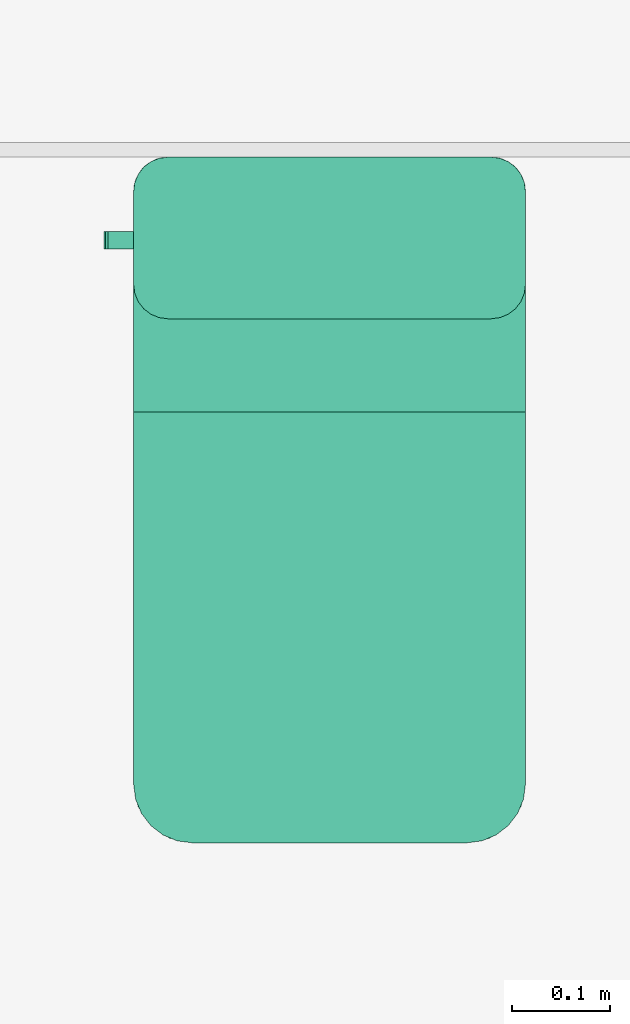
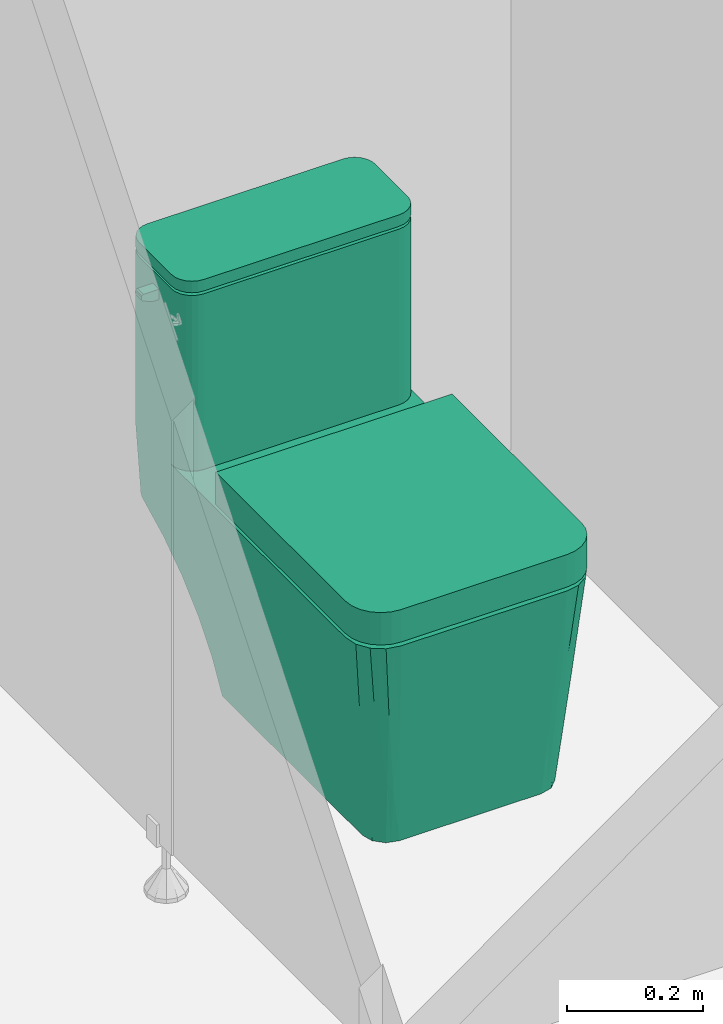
# One storey, part 88 of 100: 1 flow terminal.
"""IFC2X3 building model written with IfcOpenShell, lengths in millimetres."""

import ifcopenshell
import ifcopenshell.guid

model = None  # the IFC model being written
_history = None  # IfcOwnerHistory: only IFC2X3 demands one
_inside = {}  # id of a spatial element -> (the spatial element, [elements in it])
_under = {}  # id of a project, library or spatial element -> (it, [spatial elements below it])
_declared = {}  # id of a project -> (the project, [libraries it declares])
_typed = {}  # id of a type object -> (the type object, [elements of that type])
_made_of = {}  # id of a material, layer set ... -> (it, [elements and type objects made of it])


def new_model(schema):
    """Start an empty IFC model of exactly this schema.

    Asked for "IFC4X3", IfcOpenShell would pick the latest addendum, in which some entities
    have other attributes; the version numbers below select the first issue.
    IFC2X3 requires an IfcOwnerHistory on every rooted entity: one is made here for all.
    """
    global model, _history
    if schema == "IFC4X3":
        model = ifcopenshell.file(schema_version=(4, 3, 0, 0))
    else:
        model = ifcopenshell.file(schema=schema)
    _inside.clear()
    _under.clear()
    _declared.clear()
    _typed.clear()
    _made_of.clear()
    _history = None
    if model.schema == "IFC2X3":
        org = make("IfcOrganization", Name="unknown")
        user = make(
            "IfcPersonAndOrganization",
            ThePerson=make("IfcPerson", FamilyName="unknown"),
            TheOrganization=org,
        )
        app = make(
            "IfcApplication",
            ApplicationDeveloper=org,
            Version="unknown",
            ApplicationFullName="unknown",
            ApplicationIdentifier="unknown",
        )
        _history = make(
            "IfcOwnerHistory",
            OwningUser=user,
            OwningApplication=app,
            ChangeAction="ADDED",
            CreationDate=0,
        )
    return model


def make(cls, **values):
    """One entity of the class cls with the attributes given. An attribute that is None is left unset."""
    return model.create_entity(
        cls, **{name: value for name, value in values.items() if value is not None}
    )


def entity(cls, *values):
    """Any entity or typed value of the class cls, its attributes in the order of the schema. None: left unset."""
    e = model.create_entity(cls)
    for i, value in enumerate(values):
        if value is not None:
            e[i] = value
    return e


def rooted(cls, **values):
    """An entity with a GlobalId (a new one), such as an element, a storey or a relation."""
    return make(cls, GlobalId=ifcopenshell.guid.new(), OwnerHistory=_history, **values)


def si_unit(unit_type, name, prefix=None):
    """IfcSIUnit, for example si_unit("LENGTHUNIT", "METRE", prefix="MILLI")."""
    return make("IfcSIUnit", UnitType=unit_type, Prefix=prefix, Name=name)


def converted_unit(unit_type, name, factor, base, dimensions=None, offset=None):
    """IfcConversionBasedUnit, such as the inch: factor (a typed value) times the base unit."""
    return make(
        "IfcConversionBasedUnit"
        if offset is None
        else "IfcConversionBasedUnitWithOffset",
        ConversionOffset=offset,
        Dimensions=None
        if dimensions is None
        else entity("IfcDimensionalExponents", *dimensions),
        UnitType=unit_type,
        Name=name,
        ConversionFactor=make(
            "IfcMeasureWithUnit", ValueComponent=factor, UnitComponent=base
        ),
    )


def derived_unit(unit_type, elements):
    """IfcDerivedUnit: a product of units, each with its exponent."""
    return make(
        "IfcDerivedUnit",
        Elements=[
            make("IfcDerivedUnitElement", Unit=unit, Exponent=power)
            for unit, power in elements
        ],
        UnitType=unit_type,
    )


def assignment(units):
    """IfcUnitAssignment: the units of a project."""
    return None if units is None else make("IfcUnitAssignment", Units=units)


def point(xyz):
    """IfcCartesianPoint."""
    return None if xyz is None else make("IfcCartesianPoint", Coordinates=xyz)


def direction(xyz):
    """IfcDirection."""
    return None if xyz is None else make("IfcDirection", DirectionRatios=xyz)


def frame(location, z_axis=None, x_axis=None):
    """IfcAxis2Placement3D, a coordinate frame: its origin and axes. An axis left out is left unset."""
    return make(
        "IfcAxis2Placement3D",
        Location=point(location),
        Axis=direction(z_axis),
        RefDirection=direction(x_axis),
    )


def origin():
    """The frame at (0, 0, 0) with its axes left unset."""
    return frame((0.0, 0.0, 0.0))


def place(relative_to, where):
    """IfcLocalPlacement: puts the frame where relative to a parent placement (None: the world)."""
    return make(
        "IfcLocalPlacement", PlacementRelTo=relative_to, RelativePlacement=where
    )


def context(
    kind, dimensions, precision=None, world=None, true_north=None, identifier=None
):
    """IfcGeometricRepresentationContext, for example the 3D "Model" context."""
    return make(
        "IfcGeometricRepresentationContext",
        ContextIdentifier=identifier,
        ContextType=kind,
        CoordinateSpaceDimension=dimensions,
        Precision=precision,
        WorldCoordinateSystem=world,
        TrueNorth=true_north,
    )


def subcontext(parent, identifier, kind, view, scale=None):
    """IfcGeometricRepresentationSubContext, for example "Body" below "Model"."""
    return make(
        "IfcGeometricRepresentationSubContext",
        ContextIdentifier=identifier,
        ContextType=kind,
        ParentContext=parent,
        TargetScale=scale,
        TargetView=view,
    )


def project(units=None, contexts=None):
    """IfcProject with its units and contexts."""
    return rooted(
        "IfcProject",
        Name="project",
        RepresentationContexts=contexts,
        UnitsInContext=assignment(units),
    )


def spatial(cls, under=None, at=None, **own):
    """A site, building, storey or space (cls), placed at a placement, below another one or the project."""
    s = rooted(cls, ObjectPlacement=at, **own)
    if under is not None:
        _under.setdefault(under.id(), (under, []))[1].append(s)
    return s


def faces_of(points, faces, orient=None, outer=None):
    """IfcFace entities. A face is a list of loops; a loop is a list of indices into points, from 0.

    orient and outer hold one flag for each loop. By default every Orientation is true, the
    first loop of a face is its IfcFaceOuterBound and the others are IfcFaceBound.
    """
    made = []
    for i, loops in enumerate(faces):
        bounds = []
        for j, loop in enumerate(loops):
            is_outer = j == 0 if outer is None else outer[i][j]
            bounds.append(
                make(
                    "IfcFaceOuterBound" if is_outer else "IfcFaceBound",
                    Bound=make("IfcPolyLoop", Polygon=[points[k] for k in loop]),
                    Orientation=True if orient is None else orient[i][j],
                )
            )
        made.append(make("IfcFace", Bounds=bounds))
    return made


def faceted_brep(points, faces, orient=None, outer=None, voids=None):
    """IfcFacetedBrep: a solid bounded by flat faces; with voids (closed shells), ...WithVoids."""
    shared = [point(p) for p in points]
    hull = make("IfcClosedShell", CfsFaces=faces_of(shared, faces, orient, outer))
    if voids is None:
        return make("IfcFacetedBrep", Outer=hull)
    return make(
        "IfcFacetedBrepWithVoids",
        Outer=hull,
        Voids=[
            make(cls, CfsFaces=faces_of(shared, fs, o, b)) for cls, fs, o, b in voids
        ],
    )


def shape(context_of_items, identifier, shape_type, items):
    """IfcShapeRepresentation: the items that make up one representation, for example the "Body"."""
    return make(
        "IfcShapeRepresentation",
        ContextOfItems=context_of_items,
        RepresentationIdentifier=identifier,
        RepresentationType=shape_type,
        Items=items,
    )


def source(mapping_origin, context_of_items, identifier, shape_type, items):
    """IfcRepresentationMap: a shape defined once, which mapped items show again and again."""
    return make(
        "IfcRepresentationMap",
        MappingOrigin=mapping_origin,
        MappedRepresentation=shape(context_of_items, identifier, shape_type, items),
    )


def transform(
    local_origin,
    x_axis=None,
    y_axis=None,
    z_axis=None,
    scale=None,
    scale2=None,
    scale3=None,
    uniform=True,
):
    """IfcCartesianTransformationOperator3D, or its non-uniform kind. x_axis, y_axis, z_axis: its Axis1, 2, 3."""
    if uniform:
        return make(
            "IfcCartesianTransformationOperator3D",
            Axis1=direction(x_axis),
            Axis2=direction(y_axis),
            LocalOrigin=point(local_origin),
            Scale=scale,
            Axis3=direction(z_axis),
        )
    return make(
        "IfcCartesianTransformationOperator3DnonUniform",
        Axis1=direction(x_axis),
        Axis2=direction(y_axis),
        LocalOrigin=point(local_origin),
        Scale=scale,
        Axis3=direction(z_axis),
        Scale2=scale2,
        Scale3=scale3,
    )


def mapped(mapping_source, mapping_target):
    """IfcMappedItem: shows the shape of a source again, moved by a transform."""
    return make(
        "IfcMappedItem", MappingSource=mapping_source, MappingTarget=mapping_target
    )


def material(Name=None, Category=None):
    """IfcMaterial."""
    return make("IfcMaterial", Name=Name, Category=Category)


def material_list(materials):
    """IfcMaterialList."""
    return make("IfcMaterialList", Materials=materials)


def made_of(thing, what):
    """Note that an element or type object is made of a material, layer set ...; save() writes the relation."""
    if what is not None:
        _made_of.setdefault(what.id(), (what, []))[1].append(thing)
    return thing


def type_object(cls, material=None, **own):
    """A type object (cls), such as IfcWallType, which elements share."""
    return made_of(rooted(cls, **own), material)


def type_shapes(of_type, sources):
    """Give a type object the sources (RepresentationMaps) that its elements show as mapped items."""
    of_type.RepresentationMaps = sources


def element(
    cls,
    number,
    at=None,
    inside=None,
    cuts=None,
    type_object=None,
    material=None,
    context=None,
    identifier="Body",
    shape_type=None,
    held_by="IfcProductDefinitionShape",
    body=None,
    shapes=None,
    **own,
):
    """One element of the class cls, such as IfcWall. Its Tag is "e" and its number.

    at: its placement. inside: the storey or other place that contains it. cuts: it is an
    opening in that element (IfcRelVoidsElement). A single representation is given by context,
    identifier, shape_type and body (its items); several are given by shapes. held_by: the class
    of the entity that holds the representations. save() writes the other relations.
    """
    e = rooted(cls, Tag="e%d" % number, ObjectPlacement=at, **own)
    if body is not None:
        shapes = [shape(context, identifier, shape_type, body)]
    if shapes is not None:
        e.Representation = make(held_by, Representations=shapes)
    if inside is not None:
        _inside.setdefault(inside.id(), (inside, []))[1].append(e)
    if cuts is not None:
        rooted(
            "IfcRelVoidsElement", RelatingBuildingElement=cuts, RelatedOpeningElement=e
        )
    if type_object is not None:
        _typed.setdefault(type_object.id(), (type_object, []))[1].append(e)
    return made_of(e, material)


def aggregate(whole, parts):
    """IfcRelAggregates: a whole, such as a stair, and the parts it consists of."""
    return rooted("IfcRelAggregates", RelatingObject=whole, RelatedObjects=parts)


def save(model, path):
    """Write the relations noted so far, then the file.

    IfcRelAggregates (storeys below a building ...), IfcRelContainedInSpatialStructure (elements
    in a storey), IfcRelDefinesByType, IfcRelAssociatesMaterial and IfcRelDeclares: one each for
    every whole, place, type object, material and project.
    """
    for whole, parts in _under.values():
        aggregate(whole, parts)
    for where, things in _inside.values():
        rooted(
            "IfcRelContainedInSpatialStructure",
            RelatedElements=things,
            RelatingStructure=where,
        )
    for kind, things in _typed.values():
        rooted("IfcRelDefinesByType", RelatedObjects=things, RelatingType=kind)
    for what, things in _made_of.values():
        rooted("IfcRelAssociatesMaterial", RelatedObjects=things, RelatingMaterial=what)
    for by, libraries in _declared.values():
        rooted("IfcRelDeclares", RelatingContext=by, RelatedDefinitions=libraries)
    model.write(path)


model = new_model("IFC2X3")

# Units and contexts
model_context = context("Model", 3, precision=0.01, world=origin(), true_north=direction((6.123031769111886e-17, 1.0)))
body_context = subcontext(model_context, "Body", "Model", "MODEL_VIEW")
ifc_project = project(units=[si_unit("LENGTHUNIT", "METRE", prefix="MILLI"), si_unit("AREAUNIT", "SQUARE_METRE"), si_unit("VOLUMEUNIT", "CUBIC_METRE"), converted_unit("PLANEANGLEUNIT", "DEGREE", entity("IfcRatioMeasure", 0.017453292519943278), si_unit("PLANEANGLEUNIT", "RADIAN"), dimensions=[0, 0, 0, 0, 0, 0, 0]), si_unit("MASSUNIT", "GRAM", prefix="KILO"), derived_unit("MASSDENSITYUNIT", [(si_unit("MASSUNIT", "GRAM", prefix="KILO"), 1), (si_unit("LENGTHUNIT", "METRE"), -3)]), derived_unit("MOMENTOFINERTIAUNIT", [(si_unit("LENGTHUNIT", "METRE"), 4)]), si_unit("TIMEUNIT", "SECOND"), si_unit("FREQUENCYUNIT", "HERTZ"), si_unit("THERMODYNAMICTEMPERATUREUNIT", "DEGREE_CELSIUS"), derived_unit("THERMALTRANSMITTANCEUNIT", [(si_unit("MASSUNIT", "GRAM", prefix="KILO"), 1), (si_unit("THERMODYNAMICTEMPERATUREUNIT", "KELVIN"), -1), (si_unit("TIMEUNIT", "SECOND"), -3)]), derived_unit("VOLUMETRICFLOWRATEUNIT", [(si_unit("LENGTHUNIT", "METRE"), 3), (si_unit("TIMEUNIT", "SECOND"), -1)]), derived_unit("MASSFLOWRATEUNIT", [(si_unit("MASSUNIT", "GRAM", prefix="KILO"), 1), (si_unit("TIMEUNIT", "SECOND"), -1)]), derived_unit("ROTATIONALFREQUENCYUNIT", [(si_unit("TIMEUNIT", "SECOND"), -1)]), si_unit("ELECTRICCURRENTUNIT", "AMPERE"), si_unit("ELECTRICVOLTAGEUNIT", "VOLT"), si_unit("POWERUNIT", "WATT"), si_unit("FORCEUNIT", "NEWTON", prefix="KILO"), si_unit("ILLUMINANCEUNIT", "LUX"), si_unit("LUMINOUSFLUXUNIT", "LUMEN"), si_unit("LUMINOUSINTENSITYUNIT", "CANDELA"), derived_unit("USERDEFINED", [(si_unit("MASSUNIT", "GRAM", prefix="KILO"), -1), (si_unit("LENGTHUNIT", "METRE"), -2), (si_unit("TIMEUNIT", "SECOND"), 3), (si_unit("LUMINOUSFLUXUNIT", "LUMEN"), 1)]), derived_unit("SOUNDPOWERUNIT", [(si_unit("MASSUNIT", "GRAM", prefix="KILO"), 1), (si_unit("LENGTHUNIT", "METRE"), 2), (si_unit("TIMEUNIT", "SECOND"), -3)]), derived_unit("SOUNDPRESSUREUNIT", [(si_unit("MASSUNIT", "GRAM", prefix="KILO"), 1), (si_unit("LENGTHUNIT", "METRE"), -1), (si_unit("TIMEUNIT", "SECOND"), -2)]), derived_unit("LINEARVELOCITYUNIT", [(si_unit("LENGTHUNIT", "METRE"), 1), (si_unit("TIMEUNIT", "SECOND"), -1)]), si_unit("PRESSUREUNIT", "PASCAL"), derived_unit("USERDEFINED", [(si_unit("LENGTHUNIT", "METRE"), -2), (si_unit("MASSUNIT", "GRAM", prefix="KILO"), 1), (si_unit("TIMEUNIT", "SECOND"), -2)]), derived_unit("LINEARFORCEUNIT", [(si_unit("MASSUNIT", "GRAM", prefix="KILO"), 1), (si_unit("LENGTHUNIT", "METRE"), 1), (si_unit("TIMEUNIT", "SECOND"), -2), (si_unit("LENGTHUNIT", "METRE"), -1)]), derived_unit("PLANARFORCEUNIT", [(si_unit("MASSUNIT", "GRAM", prefix="KILO"), 1), (si_unit("LENGTHUNIT", "METRE"), 1), (si_unit("TIMEUNIT", "SECOND"), -2), (si_unit("LENGTHUNIT", "METRE"), -2)])], contexts=[model_context])

# Site, building, storey, space
site_placement = place(None, frame((-14167.972527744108, -657.2125860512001, 0.0)))
site = spatial("IfcSite", under=ifc_project, at=site_placement, Name="Default", CompositionType="ELEMENT")
building_placement = place(site_placement, origin())
building = spatial("IfcBuilding", under=site, at=building_placement, Name="Sample Building", CompositionType="ELEMENT")
storey_placement = place(building_placement, origin())
storey = spatial("IfcBuildingStorey", under=building, at=storey_placement, Name="지상 1층", CompositionType="ELEMENT", Elevation=0.0)
space_placement = place(storey_placement, origin())
space = spatial("IfcSpace", under=storey, at=space_placement, Name="171", CompositionType="ELEMENT", InteriorOrExteriorSpace="INTERNAL")

# Flow terminal
ifc_material_1 = material(Name="KBIMS-스테인리스 스틸_도금")
ifc_material_2 = material(Name="KBIMS-도기")
ifc_material_list_1 = material_list([ifc_material_1, ifc_material_2])
ifc_material_list_2 = material_list([ifc_material_1, ifc_material_2, ifc_material_2])
distribution_element_type = type_object("IfcDistributionElementType", Name="PF127-서양식 탱크일체형:PF127-서양식 탱크일체형", material=ifc_material_list_2)
shared_shape = source(origin(), body_context, "Body", "Brep", [
    faceted_brep([(-200.0, -93.78427766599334, 671.547634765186), (-226.3198216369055, -93.78427766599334, 671.5476347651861), (-228.9221007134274, -93.78427766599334, 670.469735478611), (-230.0, -93.78427766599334, 667.8674564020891), (-230.0, -93.78427766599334, 663.5153317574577), (-229.51628854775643, -93.78427766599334, 661.8557929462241), (-228.21666089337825, -93.78427766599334, 660.71605008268), (-215.9758797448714, -93.78427766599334, 655.0080800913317), (-211.766557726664, -93.78427766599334, 653.5792078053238), (-207.34774888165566, -93.78427766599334, 653.095269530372), (-200.0, -93.78427766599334, 653.095269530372), (-230.0, -75.66503821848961, 663.5153317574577), (-230.0, -75.66503821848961, 667.8674564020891), (-228.9221007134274, -75.66503821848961, 670.469735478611), (-226.31982163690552, -75.66503821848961, 671.5476347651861), (-200.0, -75.66503821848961, 671.547634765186), (-200.0, -75.66503821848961, 653.095269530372), (-207.34774888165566, -75.66503821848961, 653.095269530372), (-211.766557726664, -75.66503821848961, 653.5792078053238), (-215.97587974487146, -75.66503821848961, 655.0080800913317), (-228.21666089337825, -75.66503821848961, 660.71605008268), (-229.51628854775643, -75.66503821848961, 661.8557929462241)], [[[0, 1, 2, 3, 4, 5, 6, 7, 8, 9, 10]], [[11, 12, 13, 14, 15, 16, 17, 18, 19, 20, 21]], [[1, 14, 13, 2]], [[13, 12, 3, 2]], [[4, 3, 12, 11]], [[4, 11, 21, 5]], [[21, 20, 6, 5]], [[7, 6, 20, 19]], [[7, 19, 18, 8]], [[18, 17, 9, 8]], [[10, 9, 17, 16]], [[0, 10, 16, 15]], [[1, 0, 15, 14]]]),
    faceted_brep([(140.0, -700.0, 445.0), (155.52914270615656, -697.9555495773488, 445.0), (170.0, -691.9615242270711, 445.0), (182.42640687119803, -682.4264068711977, 445.0), (191.96152422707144, -670.0, 445.0), (197.9555495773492, -655.5291427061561, 445.0), (200.0, -640.0, 445.0), (200.0, -260.0, 445.0), (-200.0, -260.0, 445.0), (-200.0, -640.0, 445.0), (-197.95554957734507, -655.5291427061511, 445.0), (-191.96152422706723, -670.0, 445.0), (-182.42640687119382, -682.4264068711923, 445.0), (-170.0, -691.9615242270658, 445.0), (-155.52914270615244, -697.9555495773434, 445.0), (-140.0, -700.0, 445.0), (-200.0, -640.0, 386.96747142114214), (-200.0, -260.0, 386.96747142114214), (200.0, -260.0, 386.96747142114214), (200.0, -640.0, 386.96747142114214), (197.9555495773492, -655.5291427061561, 386.96747142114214), (191.96152422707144, -670.0, 386.96747142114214), (182.42640687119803, -682.4264068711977, 386.96747142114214), (170.0, -691.9615242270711, 386.96747142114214), (155.52914270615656, -697.9555495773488, 386.96747142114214), (140.0, -700.0, 386.96747142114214), (-140.0, -700.0, 386.96747142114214), (-155.52914270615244, -697.9555495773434, 386.96747142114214), (-170.0, -691.9615242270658, 386.96747142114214), (-182.42640687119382, -682.4264068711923, 386.96747142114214), (-191.96152422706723, -670.0, 386.96747142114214), (-197.95554957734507, -655.5291427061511, 386.96747142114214)], [[[0, 1, 2, 3, 4, 5, 6, 7, 8, 9, 10, 11, 12, 13, 14, 15]], [[16, 17, 18, 19, 20, 21, 22, 23, 24, 25, 26, 27, 28, 29, 30, 31]], [[1, 24, 23, 2]], [[2, 23, 22, 3]], [[25, 24, 1, 0]], [[4, 21, 20, 5]], [[5, 20, 19, 6]], [[3, 22, 21, 4]], [[7, 6, 19, 18]], [[8, 7, 18, 17]], [[9, 8, 17, 16]], [[10, 31, 30, 11]], [[11, 30, 29, 12]], [[9, 16, 31, 10]], [[13, 28, 27, 14]], [[14, 27, 26, 15]], [[12, 29, 28, 13]], [[0, 15, 26, 25]]]),
    faceted_brep([(165.0, 0.0, 694.4321747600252), (165.0, 0.0, 380.0), (164.13685378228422, 0.0, 314.40088745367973), (163.42105263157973, 0.0, 260.0), (-163.42105263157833, 0.0, 260.0), (-164.1368541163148, 0.0, 314.40091283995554), (-165.0, 0.0, 380.0), (-165.0, 0.0, 694.4321747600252), (-165.0, 0.0, 720.0), (165.0, 0.0, 720.0), (165.0, 0.0, 699.4321747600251), (-165.0, 0.0, 699.4321747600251), (200.0, -35.0, 694.4321747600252), (200.0, -130.0, 694.4321747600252), (200.0, -130.0, 380.0), (200.0, -35.0, 380.0), (200.0, -35.0, 720.0), (200.0, -130.0, 720.0), (200.0, -130.0, 699.4321747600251), (200.0, -35.0, 699.4321747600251), (-198.80740392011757, -139.05866657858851, 694.4321747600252), (-198.80740392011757, -139.0586665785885, 380.0), (-195.31088913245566, -147.5000000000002, 380.0), (-195.31088913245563, -147.50000000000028, 694.4321747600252), (-198.80740392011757, -139.05866657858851, 699.4321747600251), (-195.31088913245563, -147.50000000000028, 699.4321747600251), (-195.3108891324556, -147.50000000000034, 720.0), (-198.80740392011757, -139.05866657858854, 720.0), (-189.74873734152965, -154.74873734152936, 380.0), (-189.74873734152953, -154.74873734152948, 694.4321747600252), (-189.74873734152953, -154.74873734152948, 699.4321747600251), (-189.74873734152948, -154.74873734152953, 720.0), (-200.0, -130.0, 380.0), (-200.0, -130.0, 694.4321747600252), (-200.0, -130.0, 699.4321747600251), (-200.0, -130.0, 720.0), (-182.5000000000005, -160.31088913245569, 694.4321747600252), (-182.50000000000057, -160.31088913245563, 380.0), (-174.05866657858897, -163.80740392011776, 380.0), (-174.05866657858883, -163.8074039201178, 694.4321747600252), (-174.05866657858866, -163.80740392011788, 720.0), (-182.50000000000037, -160.31088913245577, 720.0), (-182.5000000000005, -160.31088913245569, 699.4321747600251), (-174.05866657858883, -163.8074039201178, 699.4321747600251), (-165.0, -165.0, 380.0), (-165.0, -165.0, 694.4321747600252), (-165.0, -165.0, 720.0), (-165.0, -165.0, 699.4321747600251), (165.0, -165.0, 694.4321747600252), (165.0, -165.0, 380.0), (165.0, -165.0, 720.0), (165.0, -165.0, 699.4321747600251), (-200.0, -35.0, 694.4321747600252), (-200.0, -35.0, 380.0), (-200.0, -35.0, 720.0), (-200.0, -35.0, 699.4321747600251), (198.80740392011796, -25.941333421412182, 699.4321747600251), (195.310889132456, -17.500000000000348, 699.4321747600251), (195.31088913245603, -17.500000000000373, 720.0), (198.80740392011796, -25.94133342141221, 720.0), (189.74873734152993, -10.251262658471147, 720.0), (189.74873734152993, -10.251262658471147, 699.4321747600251), (174.05866657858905, -1.1925960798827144, 699.4321747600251), (174.0586665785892, -1.192596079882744, 720.0), (182.50000000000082, -4.68911086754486, 699.4321747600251), (182.50000000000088, -4.68911086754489, 720.0), (174.05866657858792, -163.80740392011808, 694.4321747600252), (174.05866657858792, -163.80740392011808, 380.0), (182.49999999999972, -160.31088913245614, 380.0), (182.49999999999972, -160.31088913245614, 694.4321747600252), (174.05866657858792, -163.80740392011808, 699.4321747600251), (182.49999999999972, -160.31088913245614, 699.4321747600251), (182.5000000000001, -160.31088913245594, 720.0), (174.0586665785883, -163.80740392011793, 720.0), (189.74873734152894, -154.74873734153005, 380.0), (189.74873734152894, -154.74873734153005, 694.4321747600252), (189.74873734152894, -154.74873734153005, 699.4321747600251), (189.74873734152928, -154.74873734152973, 720.0), (195.31088913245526, -147.50000000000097, 694.4321747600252), (195.31088913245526, -147.50000000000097, 380.0), (198.8074039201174, -139.05866657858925, 380.0), (198.8074039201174, -139.05866657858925, 694.4321747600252), (195.31088913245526, -147.50000000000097, 699.4321747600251), (198.8074039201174, -139.05866657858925, 699.4321747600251), (198.80740392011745, -139.0586665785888, 720.0), (195.3108891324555, -147.50000000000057, 720.0), (-174.0586665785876, -1.1925960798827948, 720.0), (-174.0586665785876, -1.1925960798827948, 699.4321747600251), (-182.49999999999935, -4.689110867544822, 720.0), (-182.49999999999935, -4.689110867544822, 699.4321747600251), (-189.7487373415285, -10.251262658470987, 720.0), (-189.7487373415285, -10.251262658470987, 699.4321747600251), (-198.8074039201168, -25.941333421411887, 720.0), (-195.31088913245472, -17.50000000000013, 720.0), (-195.31088913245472, -17.50000000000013, 699.4321747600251), (-198.8074039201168, -25.941333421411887, 699.4321747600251), (-174.0586665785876, -1.192596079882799, 694.4321747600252), (-171.07672145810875, -0.5315585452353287, 380.0), (-176.96898132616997, -2.1101309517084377, 380.0), (-182.49999999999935, -4.689110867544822, 694.4321747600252), (-182.49783433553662, -4.687860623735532, 380.0), (-187.49533036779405, -8.18656844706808, 380.0), (-189.7487373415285, -10.251262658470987, 694.4321747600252), (-195.31088913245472, -17.50000000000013, 694.4321747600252), (-195.3094689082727, -17.4975403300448, 380.0), (-197.88846700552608, -23.02716666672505, 380.0), (-198.8074039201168, -25.941333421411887, 694.4321747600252), (-199.4680424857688, -28.921015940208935, 380.0), (-191.8095995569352, -12.500102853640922, 380.0), (198.80740392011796, -25.941333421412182, 694.4321747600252), (199.46810048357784, -28.92134479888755, 380.0), (197.88863680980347, -23.02763311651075, 380.0), (195.310889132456, -17.500000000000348, 694.4321747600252), (195.3097905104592, -17.498097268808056, 380.0), (191.81007551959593, -12.500669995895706, 380.0), (189.74873734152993, -10.251262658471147, 694.4321747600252), (182.50000000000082, -4.68911086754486, 694.4321747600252), (182.49858765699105, -4.6882954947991, 380.0), (176.9698186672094, -2.110435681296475, 380.0), (171.0775985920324, -0.5317131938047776, 380.0), (174.05866657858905, -1.1925960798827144, 694.4321747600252), (187.49595914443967, -8.187095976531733, 380.0), (160.0, -210.0, 0.0), (160.0, -620.0, 0.0), (156.6733983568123, -632.4150463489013, 0.0), (154.64101615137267, -640.0, 0.0), (147.3205080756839, -647.3205080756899, 0.0), (140.0, -654.6410161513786, 0.0), (132.41504577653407, -656.673398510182, 0.0), (120.0, -660.0, 0.0), (-120.0, -660.0, 0.0), (-132.4150463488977, -656.6733983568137, 0.0), (-140.0, -654.6410161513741, 0.0), (-147.32050807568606, -647.3205080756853, 0.0), (-154.64101615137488, -640.0, 0.0), (-156.67339851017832, -632.4150457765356, 0.0), (-160.0, -620.0, 0.0), (-160.0, -210.0, 0.0), (-200.0, -640.0, 380.0), (-197.71638597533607, -651.4805029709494, 380.0), (-195.43277195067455, -662.961005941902, 380.0), (-188.92958941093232, -672.6937064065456, 380.0), (-182.42640687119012, -682.4264068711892, 380.0), (-172.69370640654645, -688.9295894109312, 380.0), (-162.96100594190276, -695.4327719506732, 380.0), (-151.48050297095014, -697.7163859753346, 380.0), (-140.0, -700.0, 380.0), (140.0, -700.0, 380.0), (151.4805029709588, -697.7163859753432, 380.0), (162.9610059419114, -695.4327719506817, 380.0), (172.69370640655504, -688.9295894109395, 380.0), (182.42640687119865, -682.4264068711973, 380.0), (188.9295894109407, -672.6937064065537, 380.0), (195.4327719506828, -662.96100594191, 380.0), (197.7163859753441, -651.4805029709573, 380.0), (200.0, -640.0, 380.0), (181.88767422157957, -630.9438371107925, 207.93290510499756), (169.05616288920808, -624.5280814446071, 86.03354744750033), (166.41215116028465, -190.4623972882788, 60.91543602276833), (172.39104658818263, -161.03070825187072, 117.71494258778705), (177.76891724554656, -122.53079215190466, 168.80471383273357), (182.39485897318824, -76.04296457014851, 212.75116024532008), (186.13906689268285, -22.871683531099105, 248.32113548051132), (193.0948286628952, -28.957975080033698, 314.4008722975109), (184.4509041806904, -13.399793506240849, 253.3937042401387), (192.48236559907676, -21.712362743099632, 318.068486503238), (185.85897664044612, -18.078391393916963, 250.93098822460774), (169.4535256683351, -0.47508644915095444, 318.71364296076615), (176.81269594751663, -2.7853559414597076, 322.8232335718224), (184.85554366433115, -8.564241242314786, 317.5126549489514), (188.64536552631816, -13.805323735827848, 311.79954638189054), (181.93237214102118, -9.070973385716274, 255.5993773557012), (168.85282113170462, -0.6257823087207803, 259.7058617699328), (178.3784036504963, -5.339995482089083, 257.4452533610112), (173.94033185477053, -2.453774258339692, 258.83869964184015), (-193.09483031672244, -28.957976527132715, 314.4008880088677), (-192.48224700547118, -21.712007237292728, 318.06820833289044), (-185.85897664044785, -18.07839139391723, 250.93098822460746), (-169.4535400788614, -0.47508841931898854, 318.7138102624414), (-188.64533012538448, -13.805305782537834, 311.79916939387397), (-184.4509041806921, -13.399793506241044, 253.39370424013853), (-184.85525539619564, -8.563839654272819, 317.5148648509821), (-178.37840365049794, -5.3399954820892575, 257.44525336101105), (-181.93237214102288, -9.070973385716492, 255.59937735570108), (-186.13906689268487, -22.87168353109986, 248.32113548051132), (-176.81199260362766, -2.7850356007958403, 322.8227486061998), (-173.9403318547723, -2.4537742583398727, 258.8386996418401), (-168.85282113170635, -0.6257823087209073, 259.70586176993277), (-182.39485897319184, -76.04296457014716, 212.75116024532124), (-177.7689172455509, -122.53079215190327, 168.8047138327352), (-172.3910465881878, -161.03070825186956, 117.71494258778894), (-166.4121511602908, -190.46239728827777, 60.9154360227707), (-170.9438402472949, -625.4719201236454, 103.96648234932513), (-181.88767486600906, -630.9438374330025, 207.932911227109), (167.84723921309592, -644.8835703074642, 113.26853664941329), (182.70359618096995, -650.4613144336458, 244.34084888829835), (172.7916320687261, -658.8131569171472, 202.6373284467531), (163.28959461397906, -663.2895949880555, 167.00838556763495), (161.3612464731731, -651.454814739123, 94.73545488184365), (130.94384024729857, -681.8876804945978, 207.93296469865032), (137.1466297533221, -675.5797921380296, 155.949684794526), (142.81243148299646, -686.5857660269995, 259.99216222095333), (174.39327642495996, -671.2588406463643, 273.5041922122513), (151.45063444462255, -661.3663368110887, 94.74858838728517), (144.3377504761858, -669.7672265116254, 125.97246068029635), (152.4807217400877, -683.0768420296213, 253.0686677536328), (158.81315653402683, -672.7916326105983, 202.63733033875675), (125.47192012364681, -670.9438402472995, 103.96648234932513), (169.1268939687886, -634.5961485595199, 96.37357614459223), (-130.94383711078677, -681.8876742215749, 207.93290510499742), (-124.52808144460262, -669.056162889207, 86.03354744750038), (-144.88357030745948, -667.8472392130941, 113.26853664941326), (-150.46131443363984, -682.7035961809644, 244.34084888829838), (-158.8131569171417, -672.7916320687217, 202.6373284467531), (-163.28959498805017, -663.2895946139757, 167.00838556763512), (-151.4548147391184, -661.3612464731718, 94.73545488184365), (-175.57979213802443, -637.1466297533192, 155.94968479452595), (-186.58576602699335, -642.8124314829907, 259.99216222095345), (-171.25884064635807, -674.3932764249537, 273.50419221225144), (-161.36633681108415, -651.4506344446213, 94.74858838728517), (-169.76722651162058, -644.3377504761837, 125.97246068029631), (-172.79163261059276, -658.8131565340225, 202.63733033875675), (-134.5961485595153, -669.1268939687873, 96.37357614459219), (-183.07684202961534, -652.480721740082, 253.06866775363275), (-185.0, -150.0, 699.4321747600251), (-185.0, -15.0, 699.4321747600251), (-185.0, -15.0, 694.4321747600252), (-185.0, -150.0, 694.4321747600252), (185.0, -150.0, 699.4321747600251), (185.0, -150.0, 694.4321747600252), (185.0, -15.0, 699.4321747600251), (185.0, -15.0, 694.4321747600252)], [[[0, 1, 2, 3, 4, 5, 6, 7]], [[8, 9, 10, 11]], [[12, 13, 14, 15]], [[16, 17, 18, 19]], [[20, 21, 22, 23]], [[24, 25, 26, 27]], [[23, 22, 28, 29]], [[25, 30, 31, 26]], [[32, 21, 20, 33]], [[34, 24, 27, 35]], [[36, 37, 38, 39]], [[40, 41, 42, 43]], [[39, 38, 44, 45]], [[46, 40, 43, 47]], [[29, 28, 37, 36]], [[30, 42, 41, 31]], [[48, 45, 44, 49]], [[50, 46, 47, 51]], [[33, 52, 53, 32]], [[35, 54, 55, 34]], [[56, 57, 58, 59]], [[19, 56, 59, 16]], [[60, 58, 57, 61]], [[62, 10, 9, 63]], [[64, 62, 63, 65]], [[61, 64, 65, 60]], [[66, 67, 68, 69]], [[70, 71, 72, 73]], [[69, 68, 74, 75]], [[71, 76, 77, 72]], [[49, 67, 66, 48]], [[51, 70, 73, 50]], [[78, 79, 80, 81]], [[82, 83, 84, 85]], [[81, 80, 14, 13]], [[83, 18, 17, 84]], [[75, 74, 79, 78]], [[76, 82, 85, 77]], [[86, 8, 11, 87]], [[88, 86, 87, 89]], [[90, 88, 89, 91]], [[92, 93, 94, 95]], [[54, 92, 95, 55]], [[91, 94, 93, 90]], [[9, 8, 86, 88, 90, 93, 92, 54, 35, 27, 26, 31, 41, 40, 46, 50, 73, 72, 77, 85, 84, 17, 16, 59, 58, 60, 65, 63]], [[96, 97, 98]], [[99, 98, 100]], [[99, 100, 101]], [[6, 97, 7]], [[7, 97, 96]], [[98, 99, 96]], [[101, 102, 99]], [[103, 104, 105]], [[106, 105, 107]], [[52, 107, 53]], [[102, 108, 103]], [[108, 102, 101]], [[104, 103, 108]], [[105, 106, 103]], [[107, 52, 106]], [[109, 110, 111]], [[112, 111, 113]], [[112, 113, 114]], [[15, 110, 12]], [[12, 110, 109]], [[111, 112, 109]], [[114, 115, 112]], [[116, 117, 118]], [[118, 119, 120]], [[1, 0, 119]], [[115, 121, 116]], [[121, 115, 114]], [[117, 116, 121]], [[118, 120, 116]], [[119, 0, 120]], [[122, 123, 124, 125, 126, 127, 128, 129, 130, 131, 132, 133, 134, 135, 136, 137]], [[21, 32, 138, 139, 140, 141, 142, 143, 144, 145, 146, 147, 148, 149, 150, 151, 152, 153, 154, 155, 14, 80, 79, 74, 68, 67, 49, 44, 38, 37, 28, 22]], [[14, 155, 156, 157, 123, 122, 158, 159, 160, 161, 162, 163, 15]], [[164, 165, 166]], [[1, 119, 167]], [[118, 117, 168]], [[169, 170, 171]], [[121, 169, 168]], [[117, 121, 168]], [[2, 1, 167, 3]], [[170, 114, 113]], [[172, 167, 168]], [[110, 15, 163]], [[173, 174, 168]], [[171, 173, 169]], [[114, 169, 121]], [[111, 165, 170]], [[111, 110, 165]], [[3, 167, 172]], [[165, 163, 166]], [[168, 169, 173]], [[169, 114, 170]], [[172, 168, 174]], [[171, 170, 164]], [[164, 170, 165]], [[168, 167, 118]], [[166, 163, 162]], [[163, 165, 110]], [[167, 119, 118]], [[170, 113, 111]], [[175, 176, 177]], [[98, 97, 178]], [[176, 105, 179]], [[176, 179, 180]], [[108, 181, 179]], [[182, 183, 181]], [[175, 107, 176]], [[6, 5, 4, 178]], [[184, 175, 177]], [[176, 180, 177]], [[182, 185, 186]], [[179, 183, 180]], [[105, 104, 179]], [[101, 181, 108]], [[185, 100, 98]], [[185, 98, 178]], [[185, 178, 187]], [[97, 6, 178]], [[101, 100, 185]], [[181, 101, 185]], [[107, 105, 176]], [[185, 182, 181]], [[185, 187, 186]], [[175, 53, 107]], [[178, 4, 187]], [[181, 183, 179]], [[179, 104, 108]], [[138, 32, 53, 175, 184, 188, 189, 190, 191, 137, 136, 192, 193]], [[194, 195, 196]], [[197, 126, 198]], [[199, 200, 201]], [[156, 154, 195]], [[202, 152, 151]], [[196, 152, 202]], [[127, 203, 204]], [[194, 198, 125]], [[150, 205, 206]], [[203, 206, 204]], [[124, 194, 125]], [[198, 194, 196]], [[200, 199, 207]], [[123, 157, 156, 208]], [[194, 124, 208]], [[206, 197, 202]], [[194, 208, 195]], [[150, 202, 151]], [[156, 195, 208]], [[123, 208, 124]], [[126, 197, 203]], [[197, 198, 196]], [[126, 125, 198]], [[202, 197, 196]], [[197, 206, 203]], [[127, 204, 128]], [[126, 203, 127]], [[206, 205, 204]], [[202, 150, 206]], [[128, 204, 200]], [[195, 152, 196]], [[148, 205, 149]], [[152, 195, 153]], [[205, 148, 201]], [[128, 200, 207]], [[205, 201, 200]], [[129, 128, 207]], [[205, 200, 204]], [[147, 199, 201]], [[154, 156, 155]], [[154, 153, 195]], [[149, 205, 150]], [[148, 147, 201]], [[146, 209, 210, 130, 129, 207, 199, 147]], [[211, 212, 213]], [[214, 133, 215]], [[193, 216, 217]], [[209, 145, 212]], [[218, 143, 142]], [[213, 143, 218]], [[134, 219, 220]], [[211, 215, 132]], [[142, 141, 218]], [[219, 221, 220]], [[131, 211, 132]], [[215, 211, 213]], [[216, 193, 192]], [[130, 210, 209, 222]], [[211, 131, 222]], [[221, 214, 218]], [[211, 222, 212]], [[218, 141, 221]], [[209, 212, 222]], [[130, 222, 131]], [[133, 214, 219]], [[214, 215, 213]], [[133, 132, 215]], [[218, 214, 213]], [[214, 221, 219]], [[134, 220, 135]], [[133, 219, 134]], [[221, 223, 220]], [[141, 223, 221]], [[135, 220, 216]], [[212, 143, 213]], [[223, 141, 140]], [[143, 212, 144]], [[223, 139, 217]], [[135, 216, 192]], [[223, 217, 216]], [[136, 135, 192]], [[223, 216, 220]], [[138, 193, 217]], [[145, 209, 146]], [[145, 144, 212]], [[139, 223, 140]], [[139, 138, 217]], [[186, 187, 4]], [[182, 186, 4]], [[4, 180, 183]], [[182, 4, 183]], [[4, 3, 162, 184]], [[172, 174, 3]], [[173, 3, 174]], [[171, 3, 173]], [[164, 3, 171]], [[164, 166, 3]], [[162, 3, 166]], [[177, 180, 4]], [[184, 162, 161, 188]], [[190, 189, 160, 159]], [[160, 189, 188, 161]], [[191, 190, 159, 158]], [[191, 158, 122, 137]], [[177, 4, 184]], [[224, 225, 226, 227]], [[228, 224, 227, 229]], [[230, 228, 229, 231]], [[225, 230, 231, 226]], [[78, 81, 229]], [[229, 75, 78]], [[81, 13, 229]], [[231, 229, 13]], [[13, 12, 231]], [[12, 109, 231]], [[231, 109, 112]], [[112, 115, 231]], [[115, 116, 231]], [[120, 231, 116]], [[231, 120, 0]], [[231, 0, 226]], [[226, 0, 7]], [[226, 7, 96]], [[96, 99, 226]], [[102, 226, 99]], [[103, 226, 102]], [[226, 103, 106]], [[106, 52, 226]], [[33, 226, 52]], [[33, 227, 226]], [[20, 227, 33]], [[23, 227, 20]], [[29, 227, 23]], [[29, 36, 227]], [[39, 227, 36]], [[227, 39, 45]], [[48, 227, 45]], [[229, 48, 66]], [[48, 229, 227]], [[66, 69, 229]], [[75, 229, 69]], [[57, 56, 230]], [[230, 61, 57]], [[56, 19, 230]], [[228, 230, 19]], [[19, 18, 228]], [[18, 83, 228]], [[228, 83, 82]], [[82, 76, 228]], [[76, 71, 228]], [[70, 228, 71]], [[228, 70, 51]], [[224, 228, 51]], [[51, 47, 224]], [[224, 47, 43]], [[43, 42, 224]], [[30, 224, 42]], [[25, 224, 30]], [[224, 25, 24]], [[24, 34, 224]], [[55, 224, 34]], [[55, 225, 224]], [[95, 225, 55]], [[94, 225, 95]], [[91, 225, 94]], [[91, 89, 225]], [[87, 225, 89]], [[225, 87, 11]], [[10, 225, 11]], [[230, 10, 62]], [[230, 225, 10]], [[62, 64, 230]], [[61, 230, 64]]]),
])
type_shapes(distribution_element_type, [shared_shape])
flow_terminal_placement = place(space_placement, frame((40287.963755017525, 25397.212300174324, -510.0)))
element("IfcFlowTerminal", 1, at=flow_terminal_placement, inside=space, type_object=distribution_element_type, material=ifc_material_list_1, Name="PF127-서양식 탱크일체형:PF127-서양식 탱크일체형", ObjectType="PF127-서양식 탱크일체형:PF127-서양식 탱크일체형", context=body_context, shape_type="MappedRepresentation", body=[
    mapped(shared_shape, transform((0.0, 0.0, 0.0), scale=1.0)),
])

save(model, "model.ifc")
